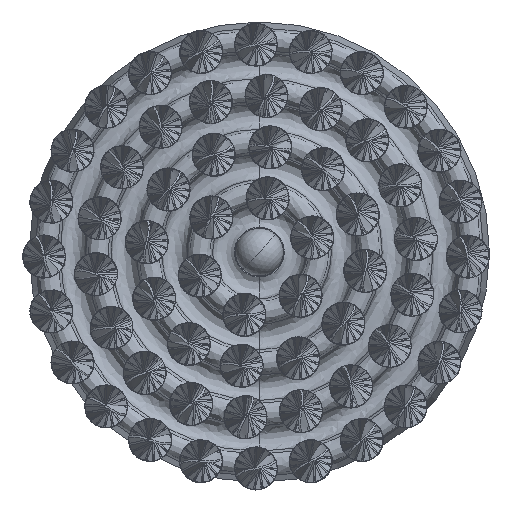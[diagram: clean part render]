
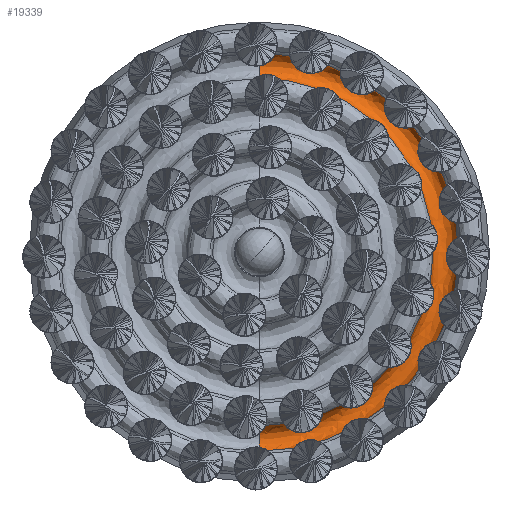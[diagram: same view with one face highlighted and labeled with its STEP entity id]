
A CAD part, front view. The second image highlights one B-rep face of the part: STEP entity #19339.
In plain terms, the highlighted free-form (B-spline) face has degree [3, 3] with [4, 4] control points.
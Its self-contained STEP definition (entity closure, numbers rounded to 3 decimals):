
#1028 = CARTESIAN_POINT ( 'NONE',  ( 366.646, -10.979, -183.323 ) ) ;
#1320 = VERTEX_POINT ( 'NONE', #18677 ) ;
#2441 = CIRCLE ( 'NONE', #18918, 181.138 ) ;
#2770 = CARTESIAN_POINT ( 'NONE',  ( 0., -10.979, 205.452 ) ) ;
#3509 = CIRCLE ( 'NONE', #10913, 207.638 ) ;
#3890 = DIRECTION ( 'NONE',  ( -1., 0., 0. ) ) ;
#4401 = DIRECTION ( 'NONE',  ( 0., 1., 0. ) ) ;
#4527 = CARTESIAN_POINT ( 'NONE',  ( 410.904, -10.979, -205.452 ) ) ;
#6273 = CARTESIAN_POINT ( 'NONE',  ( 0., -33., 207.638 ) ) ;
#6356 = DIRECTION ( 'NONE',  ( 0., -1., 0. ) ) ;
#7102 = EDGE_CURVE ( 'NONE', #7603, #1320, #13898, .T. ) ;
#7603 = VERTEX_POINT ( 'NONE', #16587 ) ;
#7915 = CARTESIAN_POINT ( 'NONE',  ( 362.275, -33., 181.138 ) ) ;
#7923 = ORIENTED_EDGE ( 'NONE', *, *, #8237, .F. ) ;
#7984 = CARTESIAN_POINT ( 'NONE',  ( 415.275, -33., -207.638 ) ) ;
#8237 = EDGE_CURVE ( 'NONE', #1320, #20821, #3509, .T. ) ;
#8292 = DIRECTION ( 'NONE',  ( 1., 0., 0. ) ) ;
#9069 = VERTEX_POINT ( 'NONE', #17305 ) ;
#9210 = CARTESIAN_POINT ( 'NONE',  ( 0., -33., -207.638 ) ) ;
#9672 = CARTESIAN_POINT ( 'NONE',  ( 0., -33., -181.138 ) ) ;
#10135 = ORIENTED_EDGE ( 'NONE', *, *, #16344, .F. ) ;
#10913 = AXIS2_PLACEMENT_3D ( 'NONE', #14694, #4401, #16456 ) ;
#11404 = CARTESIAN_POINT ( 'NONE',  ( 366.646, -10.979, 183.323 ) ) ;
#11735 = EDGE_CURVE ( 'NONE', #9069, #20821, #17009, .T. ) ;
#13099 = CARTESIAN_POINT ( 'NONE',  ( 0., -10.979, -183.323 ) ) ;
#13336 = ORIENTED_EDGE ( 'NONE', *, *, #7102, .F. ) ;
#13731 = AXIS2_PLACEMENT_3D ( 'NONE', #18651, #8292, #20417 ) ;
#13770 = CARTESIAN_POINT ( 'NONE',  ( 0., -33., 181.138 ) ) ;
#13898 = CIRCLE ( 'NONE', #13731, 13.315 ) ;
#14194 = CARTESIAN_POINT ( 'NONE',  ( 0., -34.315, -194.388 ) ) ;
#14688 = FACE_OUTER_BOUND ( 'NONE', #15687, .T. ) ;
#14694 = CARTESIAN_POINT ( 'NONE',  ( 0., -33., 0. ) ) ;
#14815 = CARTESIAN_POINT ( 'NONE',  ( 410.904, -10.979, 205.452 ) ) ;
#15631 = AXIS2_PLACEMENT_3D ( 'NONE', #14194, #3890, #15945 ) ;
#15687 = EDGE_LOOP ( 'NONE', ( #10135, #22193, #7923, #13336 ) ) ;
#15945 = DIRECTION ( 'NONE',  ( 0., 0., -1. ) ) ;
#16344 = EDGE_CURVE ( 'NONE', #9069, #7603, #2441, .T. ) ;
#16456 = DIRECTION ( 'NONE',  ( 0., 0., 1. ) ) ;
#16584 = CARTESIAN_POINT ( 'NONE',  ( 0., -10.979, -205.452 ) ) ;
#16587 = CARTESIAN_POINT ( 'NONE',  ( 0., -33., 181.138 ) ) ;
#16665 = CARTESIAN_POINT ( 'NONE',  ( 0., -33., 0. ) ) ;
#17009 = CIRCLE ( 'NONE', #15631, 13.315 ) ;
#17305 = CARTESIAN_POINT ( 'NONE',  ( 0., -33., -181.138 ) ) ;
#17932 =( BOUNDED_SURFACE ( )  B_SPLINE_SURFACE ( 3, 3, ( 
 ( #13770, #7915, #20019, #9672 ),
 ( #21787, #11404, #1028, #13099 ),
 ( #2770, #14815, #4527, #16584 ),
 ( #6273, #18335, #7984, #20088 ) ),
 .UNSPECIFIED., .F., .F., .F. ) 
 B_SPLINE_SURFACE_WITH_KNOTS ( ( 4, 4 ),
 ( 4, 4 ),
 ( 0., 1. ),
 ( 0., 1. ),
 .UNSPECIFIED. ) 
 GEOMETRIC_REPRESENTATION_ITEM ( )  RATIONAL_B_SPLINE_SURFACE ( (
 ( 1., 0.333, 0.333, 1.),
 ( 0.399, 0.133, 0.133, 0.399),
 ( 0.399, 0.133, 0.133, 0.399),
 ( 1., 0.333, 0.333, 1.) ) ) 
 REPRESENTATION_ITEM ( '' )  SURFACE ( )  );
#18335 = CARTESIAN_POINT ( 'NONE',  ( 415.275, -33., 207.638 ) ) ;
#18418 = DIRECTION ( 'NONE',  ( 0., 0., 1. ) ) ;
#18651 = CARTESIAN_POINT ( 'NONE',  ( 0., -34.315, 194.388 ) ) ;
#18677 = CARTESIAN_POINT ( 'NONE',  ( 0., -33., 207.638 ) ) ;
#18918 = AXIS2_PLACEMENT_3D ( 'NONE', #16665, #6356, #18418 ) ;
#19339 = ADVANCED_FACE ( 'NONE', ( #14688 ), #17932, .F. ) ;
#20019 = CARTESIAN_POINT ( 'NONE',  ( 362.275, -33., -181.138 ) ) ;
#20088 = CARTESIAN_POINT ( 'NONE',  ( 0., -33., -207.638 ) ) ;
#20417 = DIRECTION ( 'NONE',  ( 0., 0., 1. ) ) ;
#20821 = VERTEX_POINT ( 'NONE', #9210 ) ;
#21787 = CARTESIAN_POINT ( 'NONE',  ( 0., -10.979, 183.323 ) ) ;
#22193 = ORIENTED_EDGE ( 'NONE', *, *, #11735, .T. ) ;
